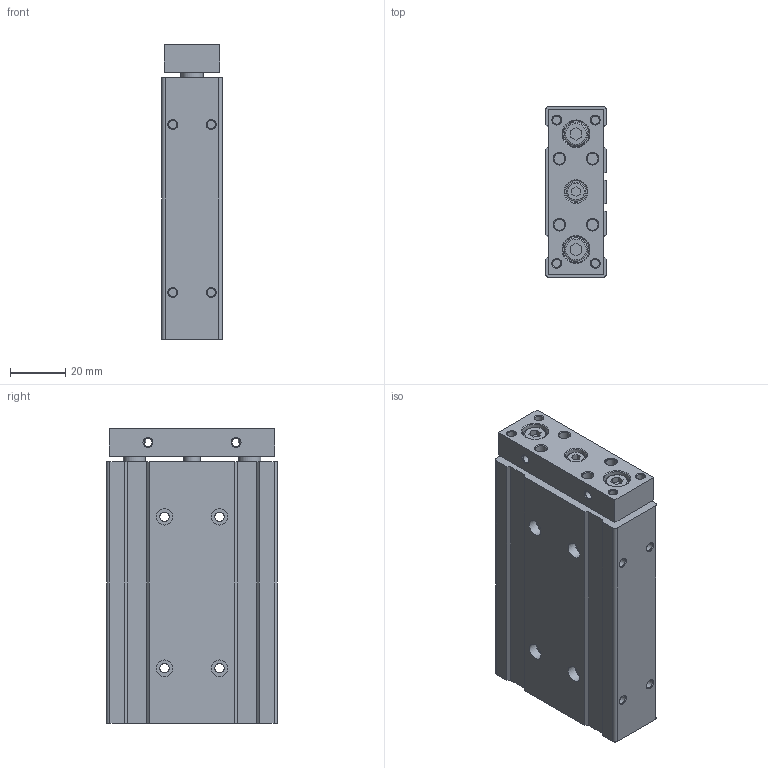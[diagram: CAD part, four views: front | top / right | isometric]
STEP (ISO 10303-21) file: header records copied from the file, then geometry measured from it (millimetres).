
FILE_DESCRIPTION((''),'2;1');
FILE_NAME('I:\3D電子目錄\氣缸\TB(U)\TB(U)10\TB(U)10\TB(U)10x50.stp','2007-08-06T08:09:28',('Administrator'),(''),'Autodesk Inventor 2008','Autodesk Inventor 2008','');
FILE_SCHEMA(('AUTOMOTIVE_DESIGN { 1 0 10303 214 1 1 1 1 }'));
Length unit declared in the file: millimetre
Products named in the file (1): TB(U)10X50
Bounding box: 22 x 62 x 107 mm (x, y, z)
Volume: 130297.4 mm3; surface area: 28977.6 mm2
Topology: 1 solids, 1 shells, 188 faces, 430 edges, 274 vertices
Faces by surface type: plane 90, cylinder 52, cone 35, bspline 8, torus 3
Full cylindrical faces by diameter (mm): 3 x10, 3.4 x4, 4 x8, 5 x2, 6 x5, 7 x1, 8 x5, 8.5 x2, 9.5 x2, 11 x1, 15 x2
Entity records: 5190 total; most frequent: CARTESIAN_POINT 1143, DIRECTION 842, ORIENTED_EDGE 676, EDGE_CURVE 338, EDGE_LOOP 338, AXIS2_PLACEMENT_3D 333, VERTEX_POINT 266, FACE_OUTER_BOUND 188
